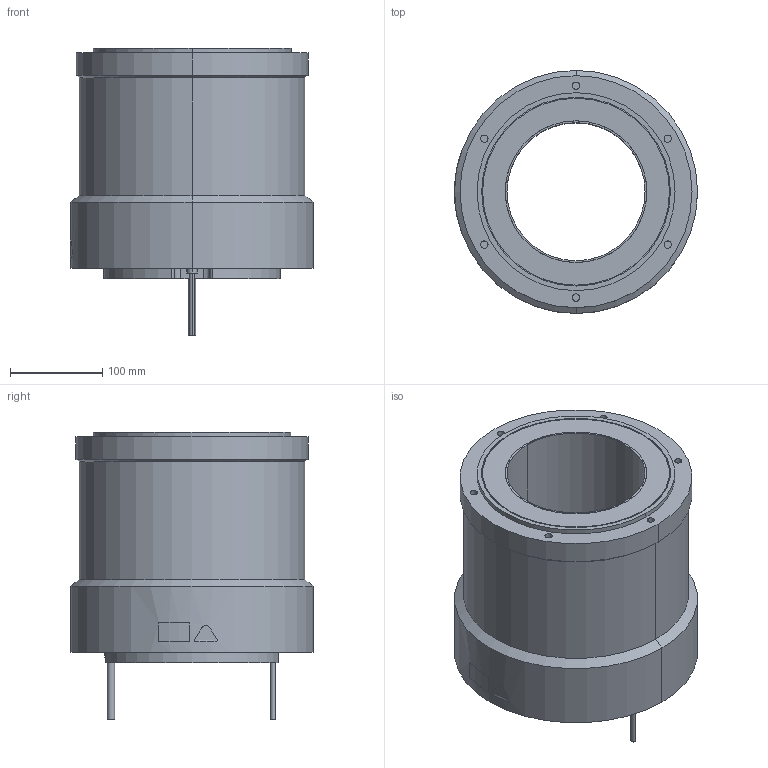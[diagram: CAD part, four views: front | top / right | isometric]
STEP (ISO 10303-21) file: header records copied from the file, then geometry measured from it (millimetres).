
FILE_DESCRIPTION (( 'STEP AP203' ), '1' );
FILE_NAME ('sgm7d_1ci_c5_.STEP', '2016-02-22T09:58:04', ( '' ), ( '' ), 'SwSTEP 2.0', 'SolidWorks 2010', '' );
FILE_SCHEMA (( 'CONFIG_CONTROL_DESIGN' ));
Length unit declared in the file: millimetre
Products named in the file (1): sgm7d_1ci_c5_
Bounding box: 264.08 x 264 x 312 mm (x, y, z)
Volume: 7532190 mm3; surface area: 404264.7 mm2
Topology: 1 solids, 1 shells, 171 faces, 400 edges, 263 vertices
Faces by surface type: cylinder 103, plane 59, bspline 5, cone 4
Entity records: 5246 total; most frequent: CARTESIAN_POINT 1074, DIRECTION 933, ORIENTED_EDGE 800, EDGE_CURVE 400, AXIS2_PLACEMENT_3D 382, VERTEX_POINT 263, CIRCLE 215, EDGE_LOOP 205
